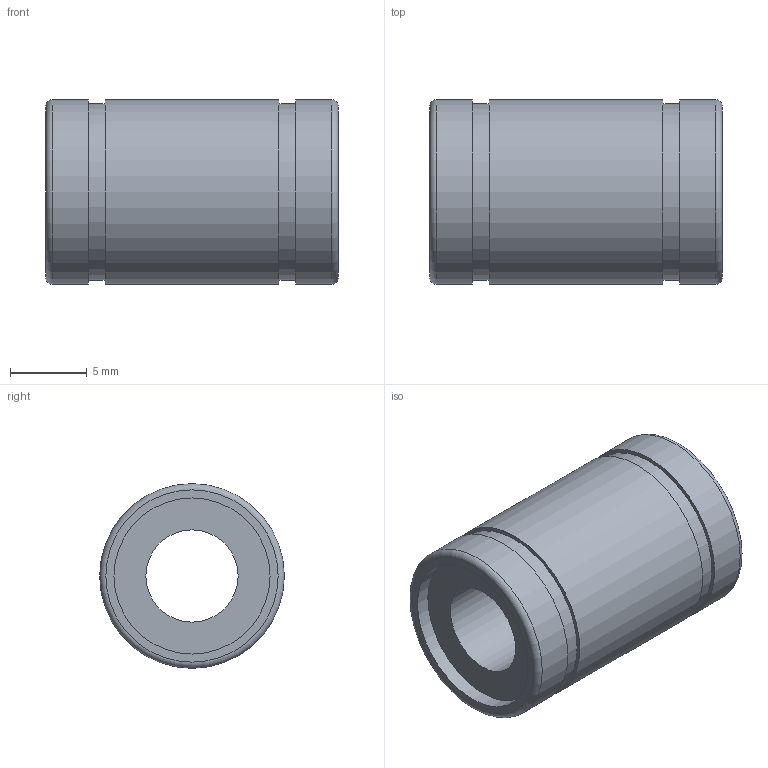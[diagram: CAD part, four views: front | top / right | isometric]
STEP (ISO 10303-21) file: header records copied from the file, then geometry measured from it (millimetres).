
FILE_DESCRIPTION( ( 'Unknown' ), '1' );
FILE_NAME( 'D:/累诀/己绕皋墨飘肺葱胶/11-04-06_档搁累己/01_府聪绢何教/LM/LM6.stp', 'Unknown', ( 'Unknown' ), ( 'Unknown' ), 'PSStep 11.0', 'Unknown', ' ' );
FILE_SCHEMA( ( 'AUTOMOTIVE_DESIGN { 1 0 10303 214 1 1 1 1 }' ) );
Length unit declared in the file: millimetre
Products named in the file (1): 1
Bounding box: 19 x 12 x 12 mm (x, y, z)
Volume: 1488.8 mm3; surface area: 1289.2 mm2
Topology: 1 solids, 1 shells, 18 faces, 30 edges, 20 vertices
Faces by surface type: plane 8, cylinder 8, torus 2
Full cylindrical faces by diameter (mm): 6 x1, 10.15 x2, 11.5 x2, 12 x3
Entity records: 528 total; most frequent: DIRECTION 74, CARTESIAN_POINT 55, AXIS2_PLACEMENT_3D 37, EDGE_LOOP 36, ORIENTED_EDGE 36, FACE_OUTER_BOUND 28, STYLED_ITEM 18, PRESENTATION_STYLE_ASSIGNMENT 18
